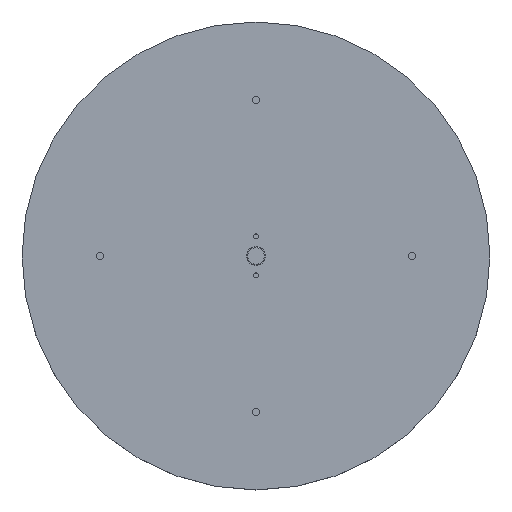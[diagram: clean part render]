
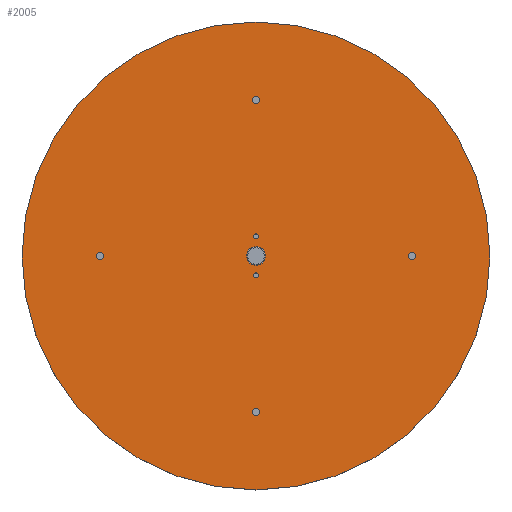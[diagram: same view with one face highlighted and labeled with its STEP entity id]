
A CAD part, top view. The second image highlights one B-rep face of the part: STEP entity #2005.
In plain terms, the highlighted planar face has unit normal (0, 0, 1).
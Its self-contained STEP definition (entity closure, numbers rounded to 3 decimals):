
#230=PLANE('',#2251);
#398=FACE_BOUND('',#745,.T.);
#399=FACE_BOUND('',#746,.T.);
#400=FACE_BOUND('',#747,.T.);
#401=FACE_BOUND('',#748,.T.);
#402=FACE_BOUND('',#749,.T.);
#403=FACE_BOUND('',#750,.T.);
#404=FACE_BOUND('',#751,.T.);
#505=FACE_OUTER_BOUND('',#744,.T.);
#744=EDGE_LOOP('',(#1601));
#745=EDGE_LOOP('',(#1602));
#746=EDGE_LOOP('',(#1603));
#747=EDGE_LOOP('',(#1604));
#748=EDGE_LOOP('',(#1605));
#749=EDGE_LOOP('',(#1606));
#750=EDGE_LOOP('',(#1607));
#751=EDGE_LOOP('',(#1608));
#922=CIRCLE('',#2232,6.);
#924=CIRCLE('',#2235,2.459);
#926=CIRCLE('',#2238,2.459);
#928=CIRCLE('',#2241,2.459);
#930=CIRCLE('',#2244,2.459);
#932=CIRCLE('',#2247,1.621);
#934=CIRCLE('',#2250,1.621);
#935=CIRCLE('',#2252,150.);
#1069=VERTEX_POINT('',#3297);
#1071=VERTEX_POINT('',#3302);
#1073=VERTEX_POINT('',#3307);
#1075=VERTEX_POINT('',#3312);
#1077=VERTEX_POINT('',#3317);
#1079=VERTEX_POINT('',#3322);
#1081=VERTEX_POINT('',#3327);
#1082=VERTEX_POINT('',#3330);
#1266=EDGE_CURVE('',#1069,#1069,#922,.T.);
#1268=EDGE_CURVE('',#1071,#1071,#924,.T.);
#1270=EDGE_CURVE('',#1073,#1073,#926,.T.);
#1272=EDGE_CURVE('',#1075,#1075,#928,.T.);
#1274=EDGE_CURVE('',#1077,#1077,#930,.T.);
#1276=EDGE_CURVE('',#1079,#1079,#932,.T.);
#1278=EDGE_CURVE('',#1081,#1081,#934,.T.);
#1279=EDGE_CURVE('',#1082,#1082,#935,.T.);
#1601=ORIENTED_EDGE('',*,*,#1279,.T.);
#1602=ORIENTED_EDGE('',*,*,#1266,.T.);
#1603=ORIENTED_EDGE('',*,*,#1268,.T.);
#1604=ORIENTED_EDGE('',*,*,#1270,.T.);
#1605=ORIENTED_EDGE('',*,*,#1272,.T.);
#1606=ORIENTED_EDGE('',*,*,#1274,.T.);
#1607=ORIENTED_EDGE('',*,*,#1276,.T.);
#1608=ORIENTED_EDGE('',*,*,#1278,.T.);
#2005=ADVANCED_FACE('',(#505,#398,#399,#400,#401,#402,#403,#404),#230,.T.);
#2232=AXIS2_PLACEMENT_3D('',#3298,#2693,#2694);
#2235=AXIS2_PLACEMENT_3D('',#3303,#2699,#2700);
#2238=AXIS2_PLACEMENT_3D('',#3308,#2705,#2706);
#2241=AXIS2_PLACEMENT_3D('',#3313,#2711,#2712);
#2244=AXIS2_PLACEMENT_3D('',#3318,#2717,#2718);
#2247=AXIS2_PLACEMENT_3D('',#3323,#2723,#2724);
#2250=AXIS2_PLACEMENT_3D('',#3328,#2729,#2730);
#2251=AXIS2_PLACEMENT_3D('',#3329,#2731,#2732);
#2252=AXIS2_PLACEMENT_3D('',#3331,#2733,#2734);
#2693=DIRECTION('center_axis',(0.,0.,-1.));
#2694=DIRECTION('ref_axis',(1.,0.,0.));
#2699=DIRECTION('center_axis',(0.,0.,-1.));
#2700=DIRECTION('ref_axis',(1.,0.,0.));
#2705=DIRECTION('center_axis',(0.,0.,-1.));
#2706=DIRECTION('ref_axis',(1.,0.,0.));
#2711=DIRECTION('center_axis',(0.,0.,-1.));
#2712=DIRECTION('ref_axis',(1.,0.,0.));
#2717=DIRECTION('center_axis',(0.,0.,-1.));
#2718=DIRECTION('ref_axis',(1.,0.,0.));
#2723=DIRECTION('center_axis',(0.,0.,-1.));
#2724=DIRECTION('ref_axis',(1.,0.,0.));
#2729=DIRECTION('center_axis',(0.,0.,-1.));
#2730=DIRECTION('ref_axis',(1.,0.,0.));
#2731=DIRECTION('center_axis',(0.,0.,1.));
#2732=DIRECTION('ref_axis',(1.,0.,0.));
#2733=DIRECTION('center_axis',(0.,0.,1.));
#2734=DIRECTION('ref_axis',(0.,-1.,0.));
#3297=CARTESIAN_POINT('',(6.,0.,23.2));
#3298=CARTESIAN_POINT('Origin',(0.,0.,23.2));
#3302=CARTESIAN_POINT('',(2.459,-100.,23.2));
#3303=CARTESIAN_POINT('Origin',(0.,-100.,23.2));
#3307=CARTESIAN_POINT('',(2.459,100.,23.2));
#3308=CARTESIAN_POINT('Origin',(0.,100.,23.2));
#3312=CARTESIAN_POINT('',(-97.542,0.,23.2));
#3313=CARTESIAN_POINT('Origin',(-100.,0.,23.2));
#3317=CARTESIAN_POINT('',(102.459,0.,23.2));
#3318=CARTESIAN_POINT('Origin',(100.,0.,23.2));
#3322=CARTESIAN_POINT('',(-10.879,0.,23.2));
#3323=CARTESIAN_POINT('Origin',(-12.5,0.,23.2));
#3327=CARTESIAN_POINT('',(14.121,0.,23.2));
#3328=CARTESIAN_POINT('Origin',(12.5,0.,23.2));
#3329=CARTESIAN_POINT('Origin',(0.,-75.,23.2));
#3330=CARTESIAN_POINT('',(0.,-150.,23.2));
#3331=CARTESIAN_POINT('Origin',(0.,0.,23.2));
